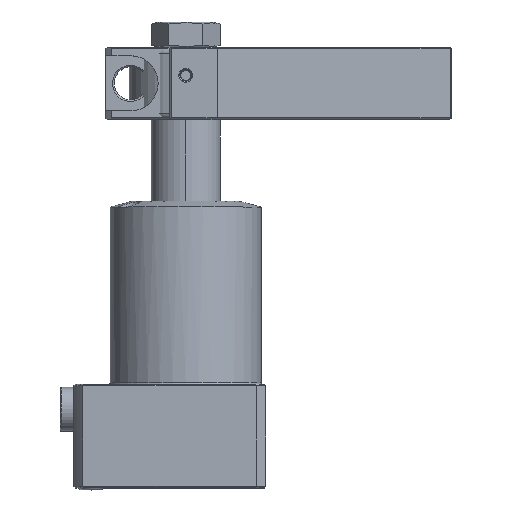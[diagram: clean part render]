
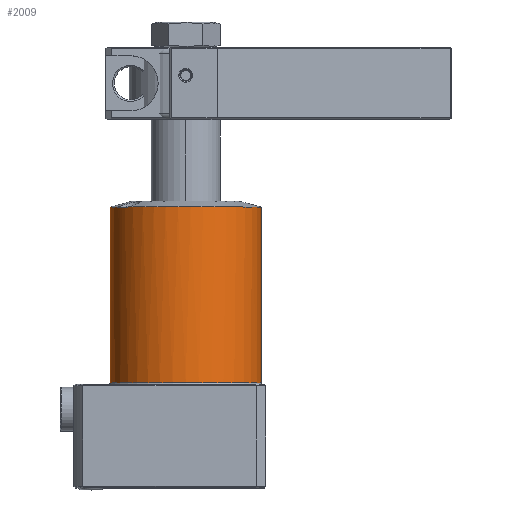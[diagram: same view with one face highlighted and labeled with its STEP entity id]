
A CAD part, top view. The second image highlights one B-rep face of the part: STEP entity #2009.
In plain terms, the highlighted cylindrical face has radius 24 mm (diameter 48 mm), a partial arc.
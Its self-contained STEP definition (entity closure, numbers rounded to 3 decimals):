
#12=CARTESIAN_POINT('',(0.,80.791,0.));
#13=DIRECTION('',(0.,-1.,0.));
#14=DIRECTION('',(1.,0.,0.));
#15=AXIS2_PLACEMENT_3D('',#12,#13,#14);
#17=CARTESIAN_POINT('',(0.,80.791,0.));
#18=DIRECTION('',(0.,-1.,0.));
#19=DIRECTION('',(-0.891,0.,0.454));
#20=AXIS2_PLACEMENT_3D('',#17,#18,#19);
#35=DIRECTION('',(0.,1.,0.));
#36=VECTOR('',#35,55.891);
#37=CARTESIAN_POINT('',(-24.,24.9,0.));
#38=LINE('',#37,#36);
#39=DIRECTION('',(0.,-1.,0.));
#40=VECTOR('',#39,55.891);
#41=CARTESIAN_POINT('',(24.,80.791,0.));
#42=LINE('',#41,#40);
#43=CARTESIAN_POINT('',(0.,24.9,0.));
#44=DIRECTION('',(0.,-1.,0.));
#45=DIRECTION('',(1.,0.,0.));
#46=AXIS2_PLACEMENT_3D('',#43,#44,#45);
#1473=DIRECTION('',(0.,-1.,0.));
#1474=VECTOR('',#1473,0.191);
#1475=CARTESIAN_POINT('',(-19.369,80.791,14.171));
#1476=LINE('',#1475,#1474);
#1482=DIRECTION('',(0.,-1.,0.));
#1483=VECTOR('',#1482,0.191);
#1484=CARTESIAN_POINT('',(-21.387,80.791,10.891));
#1485=LINE('',#1484,#1483);
#1486=CARTESIAN_POINT('',(0.,80.6,0.));
#1487=DIRECTION('',(0.,-1.,0.));
#1488=DIRECTION('',(-0.807,0.,0.59));
#1489=AXIS2_PLACEMENT_3D('',#1486,#1487,#1488);
#1875=CARTESIAN_POINT('',(-24.,80.791,0.));
#1876=CARTESIAN_POINT('',(24.,80.791,0.));
#1877=VERTEX_POINT('',#1875);
#1878=VERTEX_POINT('',#1876);
#1879=CARTESIAN_POINT('',(-19.369,80.791,14.171));
#1880=VERTEX_POINT('',#1879);
#1881=CARTESIAN_POINT('',(-21.387,80.791,10.891));
#1882=VERTEX_POINT('',#1881);
#1883=CARTESIAN_POINT('',(-24.,24.9,0.));
#1884=CARTESIAN_POINT('',(24.,24.9,0.));
#1885=VERTEX_POINT('',#1883);
#1886=VERTEX_POINT('',#1884);
#1939=CARTESIAN_POINT('',(-21.387,80.6,10.891));
#1940=VERTEX_POINT('',#1939);
#1941=CARTESIAN_POINT('',(-19.369,80.6,14.171));
#1942=VERTEX_POINT('',#1941);
#1988=CARTESIAN_POINT('',(0.,86.73,0.));
#1989=DIRECTION('',(0.,-1.,0.));
#1990=DIRECTION('',(-1.,0.,0.));
#1991=AXIS2_PLACEMENT_3D('',#1988,#1989,#1990);
#1992=CYLINDRICAL_SURFACE('',#1991,24.);
#1994=ORIENTED_EDGE('',*,*,#1993,.T.);
#1995=ORIENTED_EDGE('',*,*,#1978,.F.);
#1997=ORIENTED_EDGE('',*,*,#1996,.T.);
#1999=ORIENTED_EDGE('',*,*,#1998,.F.);
#2001=ORIENTED_EDGE('',*,*,#2000,.F.);
#2002=ORIENTED_EDGE('',*,*,#1974,.F.);
#2004=ORIENTED_EDGE('',*,*,#2003,.T.);
#2006=ORIENTED_EDGE('',*,*,#2005,.T.);
#2007=EDGE_LOOP('',(#1994,#1995,#1997,#1999,#2001,#2002,#2004,#2006));
#2008=FACE_OUTER_BOUND('',#2007,.F.);
#2009=ADVANCED_FACE('',(#2008),#1992,.T.);
#16=CIRCLE('',#15,24.);
#21=CIRCLE('',#20,24.);
#47=CIRCLE('',#46,24.);
#1490=CIRCLE('',#1489,24.);
#1974=EDGE_CURVE('',#1878,#1880,#16,.T.);
#1978=EDGE_CURVE('',#1882,#1877,#21,.T.);
#1993=EDGE_CURVE('',#1885,#1877,#38,.T.);
#1996=EDGE_CURVE('',#1882,#1940,#1485,.T.);
#1998=EDGE_CURVE('',#1942,#1940,#1490,.T.);
#2000=EDGE_CURVE('',#1880,#1942,#1476,.T.);
#2003=EDGE_CURVE('',#1878,#1886,#42,.T.);
#2005=EDGE_CURVE('',#1886,#1885,#47,.T.);
